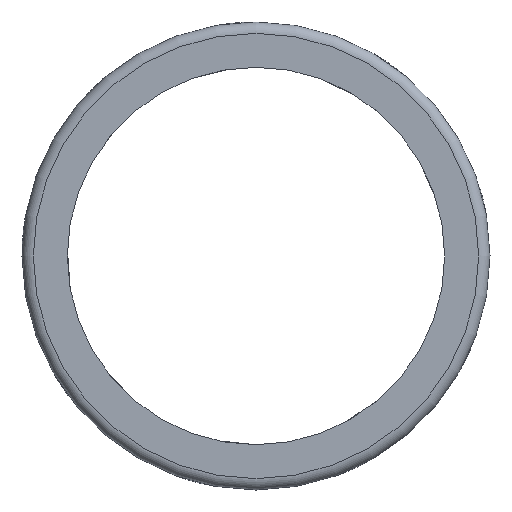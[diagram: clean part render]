
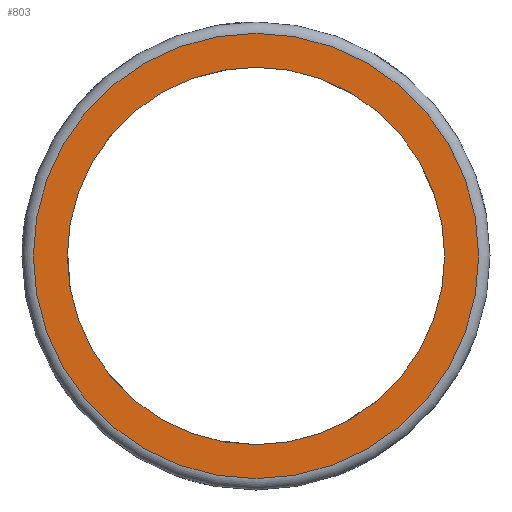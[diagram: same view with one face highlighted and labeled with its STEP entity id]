
A CAD part, left-side view. The second image highlights one B-rep face of the part: STEP entity #803.
In plain terms, the highlighted planar face has unit normal (-1, 0, 0).
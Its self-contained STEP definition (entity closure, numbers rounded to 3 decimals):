
#23=PLANE('',#863);
#44=CIRCLE('',#859,25.);
#47=CIRCLE('',#864,29.5);
#270=ORIENTED_EDGE('',*,*,#497,.T.);
#271=ORIENTED_EDGE('',*,*,#474,.T.);
#474=EDGE_CURVE('',#588,#588,#44,.T.);
#497=EDGE_CURVE('',#611,#611,#47,.F.);
#588=VERTEX_POINT('',#1289);
#611=VERTEX_POINT('',#1377);
#672=EDGE_LOOP('',(#270));
#673=EDGE_LOOP('',(#271));
#738=FACE_BOUND('',#672,.T.);
#739=FACE_BOUND('',#673,.T.);
#803=ADVANCED_FACE('',(#738,#739),#23,.F.);
#859=AXIS2_PLACEMENT_3D('',#1288,#939,#940);
#863=AXIS2_PLACEMENT_3D('',#1375,#957,#958);
#864=AXIS2_PLACEMENT_3D('',#1376,#959,#960);
#939=DIRECTION('',(1.,0.,0.));
#940=DIRECTION('',(0.,0.,-1.));
#957=DIRECTION('',(1.,0.,0.));
#958=DIRECTION('',(0.,0.,-1.));
#959=DIRECTION('',(1.,0.,0.));
#960=DIRECTION('',(0.,0.,-1.));
#1288=CARTESIAN_POINT('',(-35.,0.,0.));
#1289=CARTESIAN_POINT('',(-35.,0.,-25.));
#1375=CARTESIAN_POINT('',(-35.,0.,0.));
#1376=CARTESIAN_POINT('',(-35.,0.,0.));
#1377=CARTESIAN_POINT('',(-35.,0.,-29.5));
